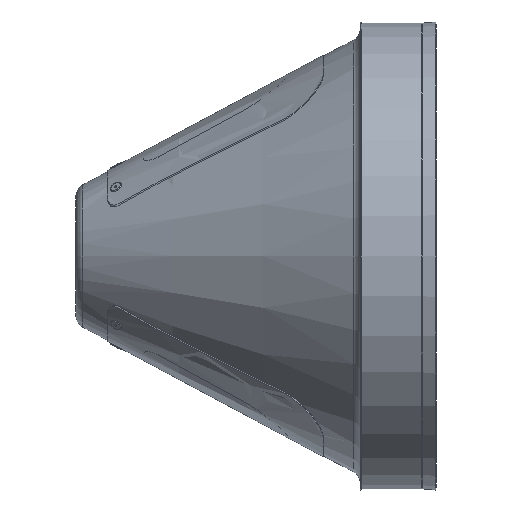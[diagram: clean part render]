
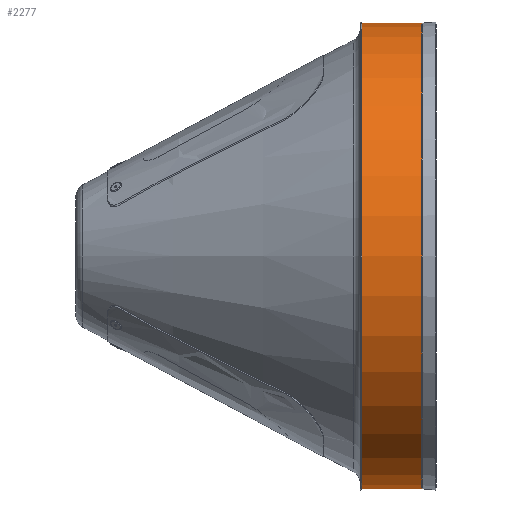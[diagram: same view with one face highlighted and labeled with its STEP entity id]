
A CAD part, left-side view. The second image highlights one B-rep face of the part: STEP entity #2277.
In plain terms, the highlighted cylindrical face has radius 258.688 mm (diameter 517.375 mm), a partial arc.
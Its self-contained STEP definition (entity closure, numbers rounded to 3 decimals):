
#94 = DIRECTION ( 'NONE',  ( 0., -1., 0. ) ) ;
#129 = CARTESIAN_POINT ( 'NONE',  ( 0., 0., -258.688 ) ) ;
#350 = VERTEX_POINT ( 'NONE', #3146 ) ;
#545 = ORIENTED_EDGE ( 'NONE', *, *, #1537, .T. ) ;
#595 = AXIS2_PLACEMENT_3D ( 'NONE', #2465, #2519, #2534 ) ;
#647 = VERTEX_POINT ( 'NONE', #1271 ) ;
#765 = EDGE_CURVE ( 'NONE', #1575, #3299, #2555, .T. ) ;
#937 = LINE ( 'NONE', #1791, #3659 ) ;
#1109 = AXIS2_PLACEMENT_3D ( 'NONE', #3277, #3148, #2184 ) ;
#1271 = CARTESIAN_POINT ( 'NONE',  ( 0., -68.563, -258.688 ) ) ;
#1481 = CIRCLE ( 'NONE', #1109, 258.688 ) ;
#1537 = EDGE_CURVE ( 'NONE', #647, #350, #1481, .T. ) ;
#1575 = VERTEX_POINT ( 'NONE', #3243 ) ;
#1791 = CARTESIAN_POINT ( 'NONE',  ( 0., 0., 258.688 ) ) ;
#1810 = CARTESIAN_POINT ( 'NONE',  ( 0., -1.5, -258.688 ) ) ;
#1830 = DIRECTION ( 'NONE',  ( 0., -1., 0. ) ) ;
#1906 = EDGE_LOOP ( 'NONE', ( #2771, #2736, #3588, #545 ) ) ;
#1952 = EDGE_CURVE ( 'NONE', #3299, #647, #3383, .T. ) ;
#2061 = AXIS2_PLACEMENT_3D ( 'NONE', #2163, #2172, #2068 ) ;
#2068 = DIRECTION ( 'NONE',  ( 0., 0., -1. ) ) ;
#2163 = CARTESIAN_POINT ( 'NONE',  ( 0., 0., 0. ) ) ;
#2172 = DIRECTION ( 'NONE',  ( 0., -1., 0. ) ) ;
#2184 = DIRECTION ( 'NONE',  ( 0., 0., -1. ) ) ;
#2277 = ADVANCED_FACE ( 'NONE', ( #2816 ), #3025, .T. ) ;
#2448 = VECTOR ( 'NONE', #94, 1000. ) ;
#2465 = CARTESIAN_POINT ( 'NONE',  ( 0., -1.5, 0. ) ) ;
#2519 = DIRECTION ( 'NONE',  ( 0., -1., 0. ) ) ;
#2534 = DIRECTION ( 'NONE',  ( 0., 0., -1. ) ) ;
#2555 = CIRCLE ( 'NONE', #595, 258.688 ) ;
#2736 = ORIENTED_EDGE ( 'NONE', *, *, #765, .T. ) ;
#2771 = ORIENTED_EDGE ( 'NONE', *, *, #3306, .F. ) ;
#2816 = FACE_OUTER_BOUND ( 'NONE', #1906, .T. ) ;
#3025 = CYLINDRICAL_SURFACE ( 'NONE', #2061, 258.688 ) ;
#3146 = CARTESIAN_POINT ( 'NONE',  ( 0., -68.563, 258.688 ) ) ;
#3148 = DIRECTION ( 'NONE',  ( 0., 1., 0. ) ) ;
#3243 = CARTESIAN_POINT ( 'NONE',  ( 0., -1.5, 258.688 ) ) ;
#3277 = CARTESIAN_POINT ( 'NONE',  ( 0., -68.563, 0. ) ) ;
#3299 = VERTEX_POINT ( 'NONE', #1810 ) ;
#3306 = EDGE_CURVE ( 'NONE', #1575, #350, #937, .T. ) ;
#3383 = LINE ( 'NONE', #129, #2448 ) ;
#3588 = ORIENTED_EDGE ( 'NONE', *, *, #1952, .T. ) ;
#3659 = VECTOR ( 'NONE', #1830, 1000. ) ;
